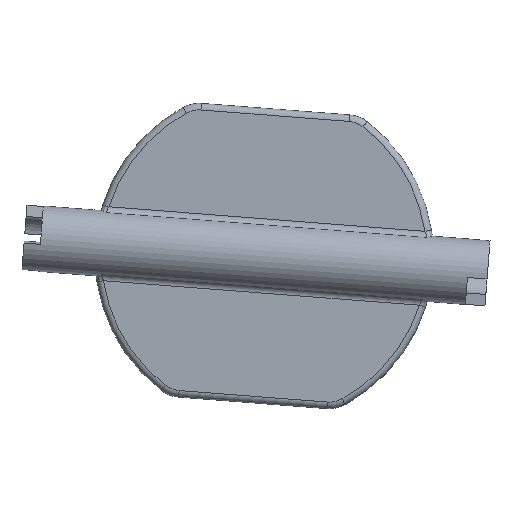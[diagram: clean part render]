
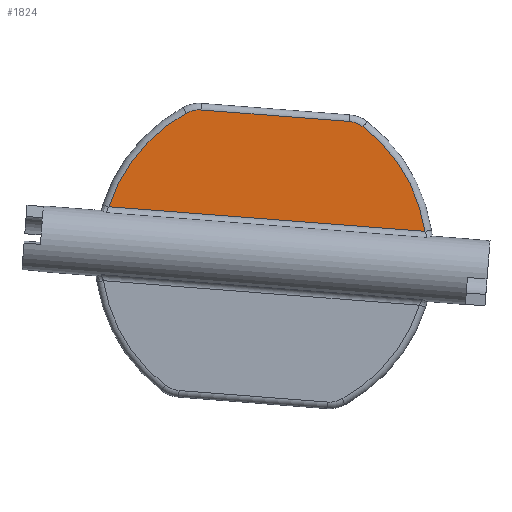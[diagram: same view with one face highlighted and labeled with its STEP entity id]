
A CAD part, front view. The second image highlights one B-rep face of the part: STEP entity #1824.
In plain terms, the highlighted planar face has unit normal (0, -1, 0).
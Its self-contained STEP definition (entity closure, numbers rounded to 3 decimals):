
#1=DIRECTION('',(-0.997,0.,0.077));
#2=VECTOR('',#1,48.354);
#3=CARTESIAN_POINT('',(189.417,-1.,178.702));
#4=LINE('',#3,#2);
#5=CARTESIAN_POINT('',(164.875,-1.,174.931));
#6=DIRECTION('',(0.,-1.,0.));
#7=DIRECTION('',(-0.478,0.,0.878));
#8=AXIS2_PLACEMENT_3D('',#5,#6,#7);
#10=CARTESIAN_POINT('',(154.919,-1.,193.228));
#11=DIRECTION('',(0.,-1.,0.));
#12=DIRECTION('',(0.077,0.,0.997));
#13=AXIS2_PLACEMENT_3D('',#10,#11,#12);
#15=DIRECTION('',(-0.997,0.,0.077));
#16=VECTOR('',#15,22.682);
#17=CARTESIAN_POINT('',(177.842,-1.,195.462));
#18=LINE('',#17,#16);
#19=CARTESIAN_POINT('',(177.533,-1.,191.474));
#20=DIRECTION('',(0.,-1.,0.));
#21=DIRECTION('',(0.608,0.,0.794));
#22=AXIS2_PLACEMENT_3D('',#19,#20,#21);
#24=CARTESIAN_POINT('',(164.875,-1.,174.931));
#25=DIRECTION('',(0.,-1.,0.));
#26=DIRECTION('',(0.988,0.,0.152));
#27=AXIS2_PLACEMENT_3D('',#24,#25,#26);
#57=CARTESIAN_POINT('',(141.208,-1.,182.44));
#81=CARTESIAN_POINT('',(189.417,-1.,178.702));
#1594=VERTEX_POINT('',#57);
#1597=VERTEX_POINT('',#81);
#1797=CARTESIAN_POINT('',(179.963,-1.,194.651));
#1798=VERTEX_POINT('',#1797);
#1799=CARTESIAN_POINT('',(177.842,-1.,195.462));
#1800=VERTEX_POINT('',#1799);
#1801=CARTESIAN_POINT('',(155.228,-1.,197.216));
#1802=VERTEX_POINT('',#1801);
#1803=CARTESIAN_POINT('',(153.007,-1.,196.741));
#1804=VERTEX_POINT('',#1803);
#1805=CARTESIAN_POINT('',(0.,-1.,0.));
#1806=DIRECTION('',(0.,1.,0.));
#1807=DIRECTION('',(1.,0.,0.));
#1808=AXIS2_PLACEMENT_3D('',#1805,#1806,#1807);
#1809=PLANE('',#1808);
#1811=ORIENTED_EDGE('',*,*,#1810,.T.);
#1813=ORIENTED_EDGE('',*,*,#1812,.F.);
#1815=ORIENTED_EDGE('',*,*,#1814,.F.);
#1817=ORIENTED_EDGE('',*,*,#1816,.F.);
#1819=ORIENTED_EDGE('',*,*,#1818,.F.);
#1821=ORIENTED_EDGE('',*,*,#1820,.F.);
#1822=EDGE_LOOP('',(#1811,#1813,#1815,#1817,#1819,#1821));
#1823=FACE_OUTER_BOUND('',#1822,.F.);
#1824=ADVANCED_FACE('',(#1823),#1809,.F.);
#9=CIRCLE('',#8,24.83);
#14=CIRCLE('',#13,4.);
#23=CIRCLE('',#22,4.);
#28=CIRCLE('',#27,24.83);
#1810=EDGE_CURVE('',#1597,#1594,#4,.T.);
#1812=EDGE_CURVE('',#1804,#1594,#9,.T.);
#1814=EDGE_CURVE('',#1802,#1804,#14,.T.);
#1816=EDGE_CURVE('',#1800,#1802,#18,.T.);
#1818=EDGE_CURVE('',#1798,#1800,#23,.T.);
#1820=EDGE_CURVE('',#1597,#1798,#28,.T.);
